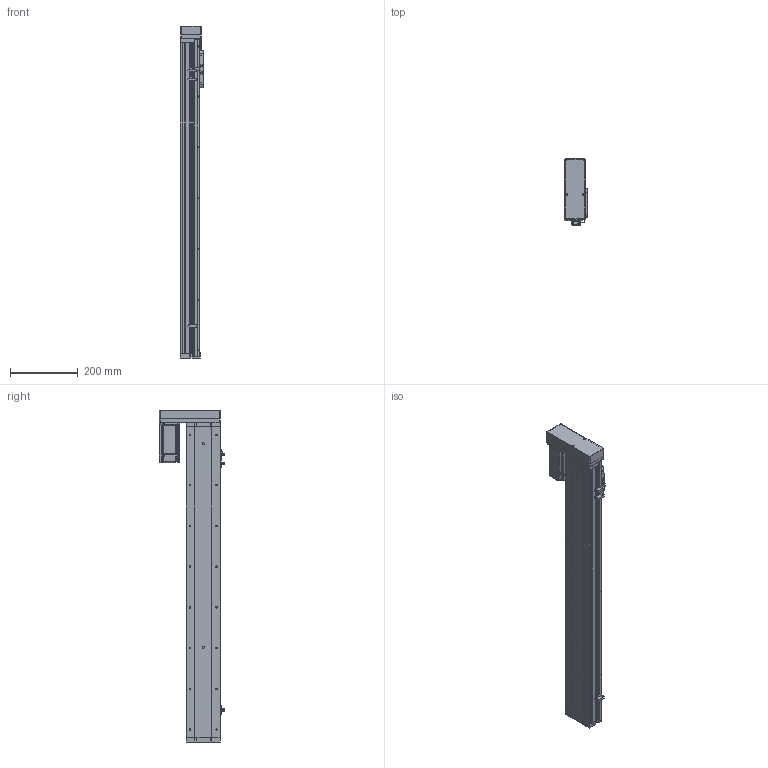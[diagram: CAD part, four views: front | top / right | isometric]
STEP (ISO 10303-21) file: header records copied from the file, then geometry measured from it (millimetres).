
FILE_DESCRIPTION (( 'STEP AP214' ), '1' );
FILE_NAME ('KSD100S-S750-ML-CR.STEP', '2019-09-02T08:21:44', ( '微软用户' ), ( '微软中国' ), 'SwSTEP 2.0', 'SolidWorks 2014', '' );
FILE_SCHEMA (( 'AUTOMOTIVE_DESIGN' ));
Length unit declared in the file: millimetre
Products named in the file (14): KSD100S-S750-ML-CR; MHMD042G1CA_2_03; 悵誘欶酘衵殏; 100宽马达安装板连板左右折丝杆; U倰嫖萇EEㄜSX672; 感应片100宽全封闭; 100宽马达安装板全封闭; 100宽端板全封闭; 100宽滚珠螺姆安装板1防护罩; 100宽滚珠螺姆安装板1; 100遵裔啣揤啣; 100遵裔啣750俴最; 100遵耜啣750俴最佪裝; 100宽底板全封闭750行程丝杆
Assembly tree (17 placements, depth 2):
  KSD100S-S750-ML-CR
    100宽底板全封闭750行程丝杆
    100遵耜啣750俴最佪裝  x2
    100遵裔啣750俴最
    100遵裔啣揤啣  x2
    100宽滚珠螺姆安装板1
    100宽滚珠螺姆安装板1防护罩
    100宽端板全封闭
    100宽马达安装板全封闭
    感应片100宽全封闭
    U倰嫖萇EEㄜSX672  x3
    100宽马达安装板连板左右折丝杆
    悵誘欶酘衵殏
    MHMD042G1CA_2_03
Bounding box: 70 x 193.7 x 978.5 mm (x, y, z)
Volume: 1984124.1 mm3; surface area: 895870.1 mm2
Topology: 16 solids, 17 shells, 1721 faces, 4798 edges, 3050 vertices
Faces by surface type: cylinder 751, plane 703, cone 249, bspline 18
Entity records: 57500 total; most frequent: CARTESIAN_POINT 9068, DIRECTION 8181, ORIENTED_EDGE 7552, EDGE_CURVE 3848, AXIS2_PLACEMENT_3D 2939, VERTEX_POINT 2548, LINE 2303, VECTOR 2303
